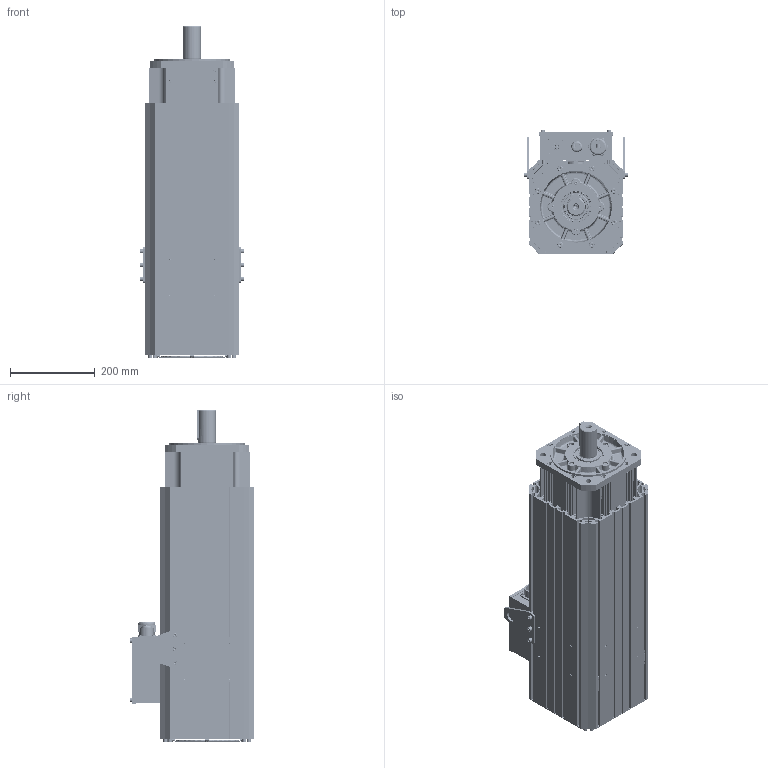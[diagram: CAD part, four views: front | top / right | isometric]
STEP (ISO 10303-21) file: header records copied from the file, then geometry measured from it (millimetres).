
FILE_DESCRIPTION (( 'STEP AP214' ), '1' );
FILE_NAME ('VM7-M20D-02215-D2FNH.STEP', '2022-04-02T01:51:51', ( '' ), ( '' ), 'SwSTEP 2.0', 'SolidWorks 2014', '' );
FILE_SCHEMA (( 'AUTOMOTIVE_DESIGN' ));
Length unit declared in the file: millimetre
Products named in the file (3): 俋褲ㄗVM7-M20Dㄘ; VM7-M20D-02215-D2FNH; 翋极ㄗVM7-M20Dㄘ
Assembly tree (2 placements, depth 2):
  VM7-M20D-02215-D2FNH
    翋极ㄗVM7-M20Dㄘ
    俋褲ㄗVM7-M20Dㄘ
Bounding box: 246.2 x 294.7 x 784 mm (x, y, z)
Volume: 2134379.2 mm3; surface area: 3268800.7 mm2
Topology: 45 solids, 183 shells, 5660 faces, 14472 edges, 9117 vertices
Faces by surface type: plane 3221, cylinder 1323, cone 587, bspline 529
Entity records: 187119 total; most frequent: CARTESIAN_POINT 50233, ORIENTED_EDGE 28442, DIRECTION 27688, EDGE_CURVE 14230, AXIS2_PLACEMENT_3D 9527, VERTEX_POINT 9117, LINE 8634, VECTOR 8634
